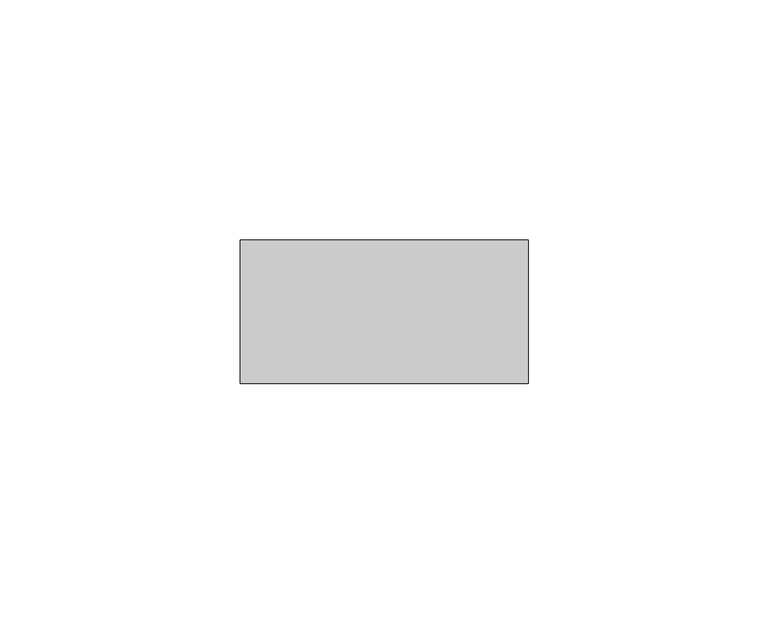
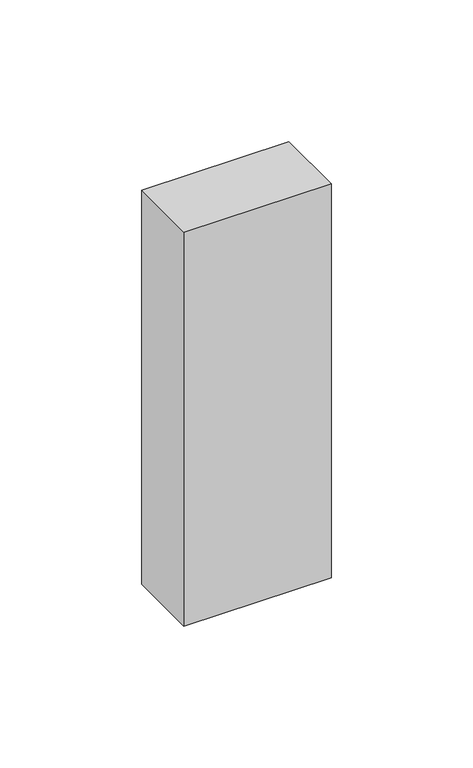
"""IFC4 building model written with IfcOpenShell, lengths in millimetres: member geometry, Прямоугольный импост : Квадрат 30 мм."""

from ifc_helpers import new_model, si_unit, frame, origin, place, context, project, spatial, polyline, outline, extrude, source, transform, mapped, element, save


def member_f80b2103(model_context):
    return source(origin(), model_context, "Body", "SweptSolid", [
        extrude(outline(polyline([(30.0, 15.0), (30.0, -15.0), (-30.0, -15.0), (-30.0, 15.0), (30.0, 15.0)])), frame((0.0, 0.0, -170.0), z_axis=(0.0, 0.0, 1.0), x_axis=(1.0, 0.0, 0.0)), (0.0, 0.0, 1.0), 170.0),
    ])


if __name__ == "__main__":
    model = new_model("IFC4")
    model_context = context("Model", 3, world=origin())
    ifc_project = project(units=[si_unit("LENGTHUNIT", "METRE", prefix="MILLI")], contexts=[model_context])
    site = spatial("IfcSite", under=ifc_project)
    building = spatial("IfcBuilding", under=site)
    placement = place(None, origin())
    member_shape = member_f80b2103(model_context)
    element("IfcMember", 1, ObjectType="Прямоугольный импост : Квадрат 30 мм", at=placement, inside=building, context=model_context, shape_type="MappedRepresentation", body=[
        mapped(member_shape, transform((0.0, 0.0, 0.0), x_axis=(1.0, 0.0, 0.0), y_axis=(0.0, 1.0, 0.0), z_axis=(0.0, 0.0, 1.0))),
    ])
    save(model, "model.ifc")
